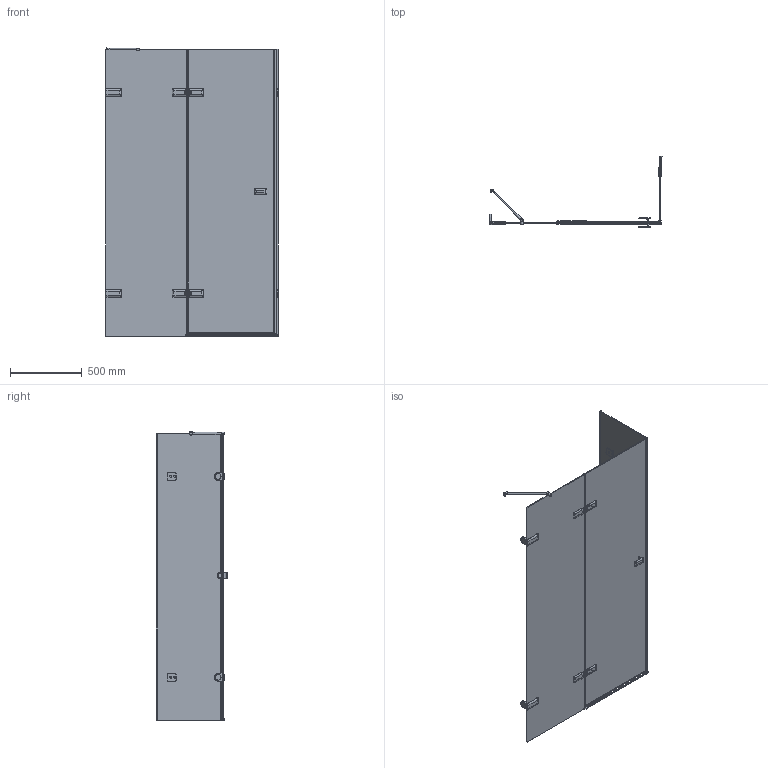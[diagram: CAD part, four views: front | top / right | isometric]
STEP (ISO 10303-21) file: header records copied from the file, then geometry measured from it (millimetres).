
FILE_DESCRIPTION(/* description */ (''),/* implementation_level */ '2;1');
FILE_NAME(/* name */ 'D:\16\TREND RECTAN GK-863GC-2722\TREND RECTAN GK-863GC-2722 левая модель\TREND RECTAN GK-863GC-2722 ЛЕВАЯ-3D.stp',/* time_stamp */ '2022-01-16T16:07:05+03:00',/* author */ ('User'),/* organization */ (''),/* preprocessor_version */ 'ST-DEVELOPER v15.2',/* originating_system */ 'Autodesk Inventor 2014',/* authorisation */ '');
FILE_SCHEMA (('CONFIG_CONTROL_DESIGN'));
Products named in the file (1): TREND RECTAN GK-863GC-2722 ЛЕВАЯ-
3D
Bounding box: 1202.6 x 499.78 x 2013.75 mm (x, y, z)
Volume: 20890508.8 mm3; surface area: 7044696 mm2
Topology: 13 solids, 15 shells, 1666 faces, 4264 edges, 2645 vertices
Faces by surface type: plane 982, cylinder 430, bspline 154, torus 46, cone 36, sphere 18
Full cylindrical faces by diameter (mm): 4 x2, 5 x6, 5.2 x2, 6 x6, 7.2 x4, 8 x2, 9 x8, 11 x2, 13 x4, 15 x1, 16 x4, 20 x2, 26 x1, 40 x2
Entity records: 68408 total; most frequent: CARTESIAN_POINT 27456, ORIENTED_EDGE 8208, DIRECTION 7923, EDGE_CURVE 4102, AXIS2_PLACEMENT_3D 2703, VERTEX_POINT 2614, LINE 2517, VECTOR 2517
